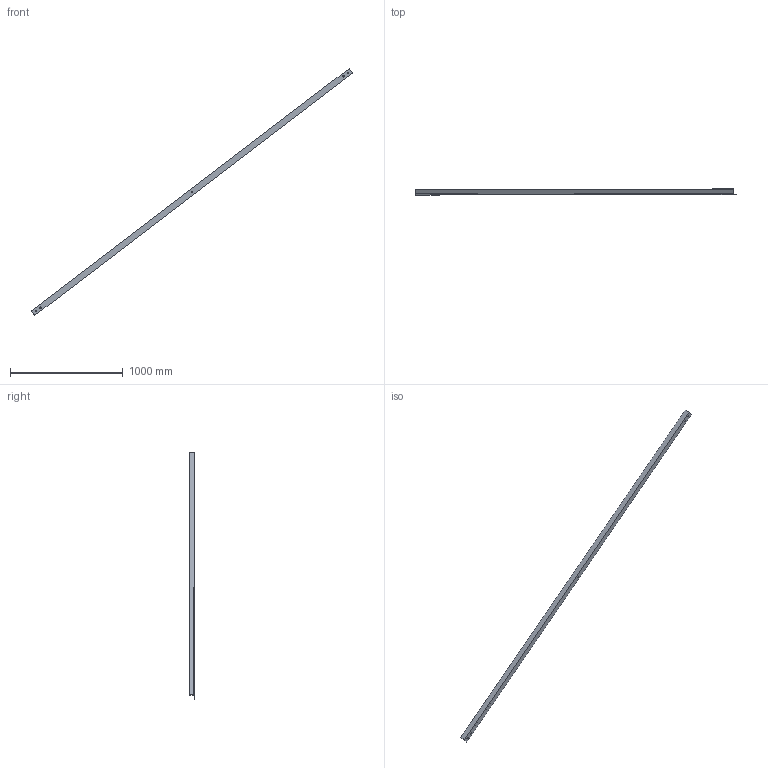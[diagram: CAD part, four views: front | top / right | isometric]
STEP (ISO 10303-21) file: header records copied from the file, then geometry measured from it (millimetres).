
FILE_DESCRIPTION (( 'STEP AP214' ), '1' );
FILE_NAME ('CCJ029-REP.049 - CONTREVENTEMENT A1-A4.STEP', '2024-01-10T14:40:54', ( '' ), ( '' ), 'SwSTEP 2.0', 'SolidWorks 2021', '' );
FILE_SCHEMA (( 'AUTOMOTIVE_DESIGN' ));
Length unit declared in the file: millimetre
Products named in the file (1): CCJ029-REP.049 - CONTREVENTEMENT A1-A4
Bounding box: 2852.18 x 50 x 2193.75 mm (x, y, z)
Volume: 1701066.5 mm3; surface area: 689189.3 mm2
Topology: 1 solids, 1 shells, 21 faces, 57 edges, 38 vertices
Faces by surface type: cylinder 13, plane 8
Entity records: 731 total; most frequent: DIRECTION 127, CARTESIAN_POINT 117, ORIENTED_EDGE 114, EDGE_CURVE 57, AXIS2_PLACEMENT_3D 48, VERTEX_POINT 38, EDGE_LOOP 31, LINE 31
